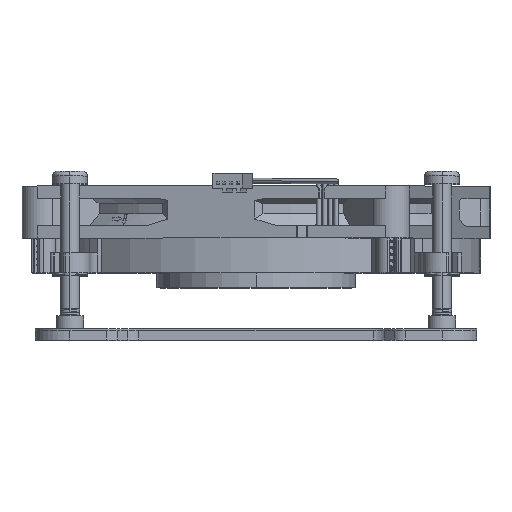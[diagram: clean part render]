
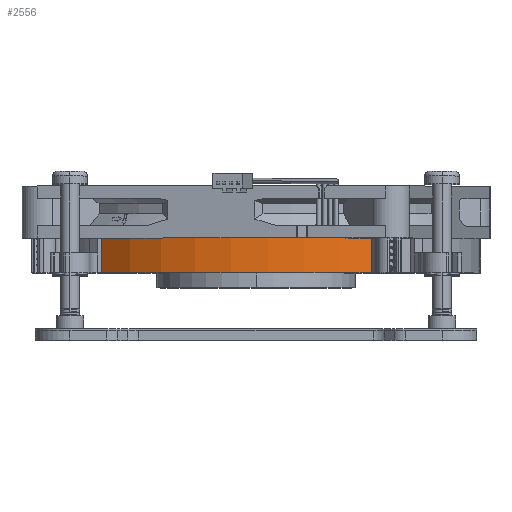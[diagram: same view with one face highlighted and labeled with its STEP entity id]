
A CAD part, top view. The second image highlights one B-rep face of the part: STEP entity #2556.
In plain terms, the highlighted cylindrical face has radius 45.1 mm (diameter 90.2 mm), a partial arc.
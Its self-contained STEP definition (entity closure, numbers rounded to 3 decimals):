
#252=CARTESIAN_POINT('',(1463.369,692.972,-0.008));
#253=DIRECTION('',(0.,1.,0.));
#254=DIRECTION('',(-0.691,0.,0.723));
#255=AXIS2_PLACEMENT_3D('',#252,#253,#254);
#614=CARTESIAN_POINT('',(1463.369,685.972,-0.008));
#615=DIRECTION('',(0.,1.,0.));
#616=DIRECTION('',(-0.691,0.,0.723));
#617=AXIS2_PLACEMENT_3D('',#614,#615,#616);
#1232=DIRECTION('',(0.,1.,0.));
#1233=VECTOR('',#1232,7.);
#1234=CARTESIAN_POINT('',(1432.19,685.972,32.578));
#1235=LINE('',#1234,#1233);
#1373=DIRECTION('',(0.,1.,0.));
#1374=VECTOR('',#1373,7.);
#1375=CARTESIAN_POINT('',(1486.582,685.972,38.66));
#1376=LINE('',#1375,#1374);
#2256=CARTESIAN_POINT('',(1432.19,685.972,32.578));
#2257=CARTESIAN_POINT('',(1432.19,692.972,32.578));
#2258=VERTEX_POINT('',#2256);
#2259=VERTEX_POINT('',#2257);
#2260=CARTESIAN_POINT('',(1486.582,685.972,38.66));
#2261=CARTESIAN_POINT('',(1486.582,692.972,38.66));
#2262=VERTEX_POINT('',#2260);
#2263=VERTEX_POINT('',#2261);
#2542=CARTESIAN_POINT('',(1463.369,692.972,
-0.008));
#2543=DIRECTION('',(0.,1.,0.));
#2544=DIRECTION('',(-1.,0.,0.));
#2545=AXIS2_PLACEMENT_3D('',#2542,#2543,#2544);
#2546=CYLINDRICAL_SURFACE('',#2545,45.1);
#2548=ORIENTED_EDGE('',*,*,#2547,.T.);
#2549=ORIENTED_EDGE('',*,*,#2415,.T.);
#2551=ORIENTED_EDGE('',*,*,#2550,.F.);
#2553=ORIENTED_EDGE('',*,*,#2552,.F.);
#2554=EDGE_LOOP('',(#2548,#2549,#2551,#2553));
#2555=FACE_OUTER_BOUND('',#2554,.F.);
#2556=ADVANCED_FACE('',(#2555),#2546,.T.);
#256=CIRCLE('',#255,45.1);
#618=CIRCLE('',#617,45.1);
#2415=EDGE_CURVE('',#2259,#2263,#256,.T.);
#2547=EDGE_CURVE('',#2258,#2259,#1235,.T.);
#2550=EDGE_CURVE('',#2262,#2263,#1376,.T.);
#2552=EDGE_CURVE('',#2258,#2262,#618,.T.);
